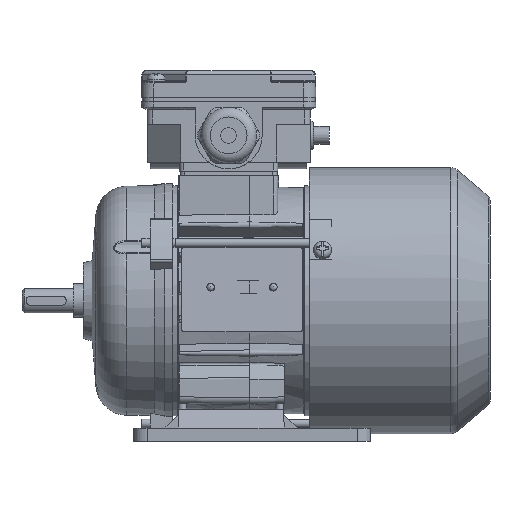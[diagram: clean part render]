
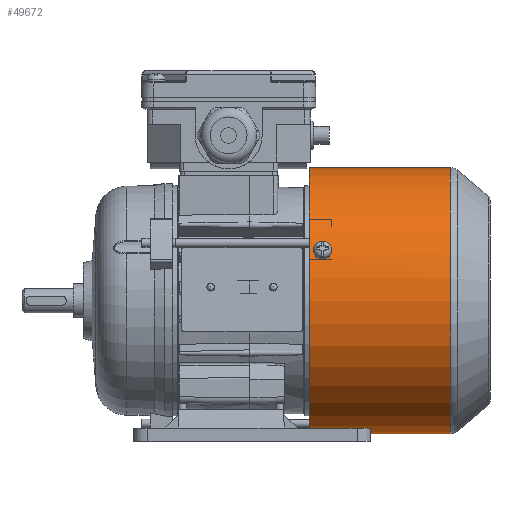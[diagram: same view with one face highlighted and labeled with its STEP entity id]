
A CAD part, front view. The second image highlights one B-rep face of the part: STEP entity #49672.
In plain terms, the highlighted cylindrical face has radius 59.6 mm (diameter 119.2 mm), a full revolution.
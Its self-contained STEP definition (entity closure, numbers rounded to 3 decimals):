
#765=B_SPLINE_CURVE_WITH_KNOTS('',3,(#66107,#66108,#66109,#66110,#66111,
#66112,#66113),.UNSPECIFIED.,.F.,.F.,(4,1,1,1,4),(0.,
0.002,0.004,0.006,0.007),
 .UNSPECIFIED.);
#766=B_SPLINE_CURVE_WITH_KNOTS('',3,(#66119,#66120,#66121,#66122,#66123,
#66124,#66125),.UNSPECIFIED.,.F.,.F.,(4,1,1,1,4),(0.,
0.002,0.004,0.006,0.007),
 .UNSPECIFIED.);
#767=B_SPLINE_CURVE_WITH_KNOTS('',3,(#66158,#66159,#66160,#66161,#66162,
#66163,#66164),.UNSPECIFIED.,.F.,.F.,(4,1,1,1,4),(0.,0.002,
0.004,0.006,0.008),
 .UNSPECIFIED.);
#768=B_SPLINE_CURVE_WITH_KNOTS('',3,(#66168,#66169,#66170,#66171,#66172,
#66173,#66174),.UNSPECIFIED.,.F.,.F.,(4,1,1,1,4),(0.,
0.002,0.004,0.006,0.008),
 .UNSPECIFIED.);
#769=B_SPLINE_CURVE_WITH_KNOTS('',3,(#66178,#66179,#66180,#66181,#66182,
#66183,#66184),.UNSPECIFIED.,.F.,.F.,(4,1,1,1,4),(0.,0.002,
0.004,0.006,0.008),
 .UNSPECIFIED.);
#770=B_SPLINE_CURVE_WITH_KNOTS('',3,(#66188,#66189,#66190,#66191,#66192,
#66193,#66194),.UNSPECIFIED.,.F.,.F.,(4,1,1,1,4),(0.,0.002,
0.004,0.006,0.008),
 .UNSPECIFIED.);
#1759=CYLINDRICAL_SURFACE('',#51781,59.6);
#8115=ORIENTED_EDGE('',*,*,#18914,.T.);
#8116=ORIENTED_EDGE('',*,*,#18915,.T.);
#8117=ORIENTED_EDGE('',*,*,#18916,.T.);
#8118=ORIENTED_EDGE('',*,*,#18917,.T.);
#8119=ORIENTED_EDGE('',*,*,#18897,.F.);
#8120=ORIENTED_EDGE('',*,*,#18900,.F.);
#8121=ORIENTED_EDGE('',*,*,#18918,.T.);
#8122=ORIENTED_EDGE('',*,*,#18919,.T.);
#8123=ORIENTED_EDGE('',*,*,#18920,.T.);
#8124=ORIENTED_EDGE('',*,*,#18921,.T.);
#8125=ORIENTED_EDGE('',*,*,#18922,.F.);
#8126=ORIENTED_EDGE('',*,*,#18923,.T.);
#18897=EDGE_CURVE('',#24331,#24332,#765,.T.);
#18900=EDGE_CURVE('',#24332,#24331,#766,.T.);
#18914=EDGE_CURVE('',#24347,#24348,#27905,.F.);
#18915=EDGE_CURVE('',#24348,#24349,#767,.T.);
#18916=EDGE_CURVE('',#24349,#24350,#27906,.F.);
#18917=EDGE_CURVE('',#24350,#24347,#768,.T.);
#18918=EDGE_CURVE('',#24351,#24352,#27907,.F.);
#18919=EDGE_CURVE('',#24352,#24353,#769,.T.);
#18920=EDGE_CURVE('',#24353,#24354,#27908,.F.);
#18921=EDGE_CURVE('',#24354,#24351,#770,.T.);
#18922=EDGE_CURVE('',#24355,#24355,#27909,.T.);
#18923=EDGE_CURVE('',#24356,#24356,#27910,.F.);
#24331=VERTEX_POINT('',#66105);
#24332=VERTEX_POINT('',#66106);
#24347=VERTEX_POINT('',#66156);
#24348=VERTEX_POINT('',#66157);
#24349=VERTEX_POINT('',#66165);
#24350=VERTEX_POINT('',#66167);
#24351=VERTEX_POINT('',#66176);
#24352=VERTEX_POINT('',#66177);
#24353=VERTEX_POINT('',#66185);
#24354=VERTEX_POINT('',#66187);
#24355=VERTEX_POINT('',#66196);
#24356=VERTEX_POINT('',#66198);
#27905=CIRCLE('',#51782,59.6);
#27906=CIRCLE('',#51783,59.6);
#27907=CIRCLE('',#51784,59.6);
#27908=CIRCLE('',#51785,59.6);
#27909=CIRCLE('',#51786,59.6);
#27910=CIRCLE('',#51787,59.6);
#29459=EDGE_LOOP('',(#8115,#8116,#8117,#8118));
#29460=EDGE_LOOP('',(#8119,#8120));
#29461=EDGE_LOOP('',(#8121,#8122,#8123,#8124));
#29462=EDGE_LOOP('',(#8125));
#29463=EDGE_LOOP('',(#8126));
#31881=FACE_BOUND('',#29459,.T.);
#31882=FACE_BOUND('',#29460,.T.);
#31883=FACE_BOUND('',#29461,.T.);
#31884=FACE_BOUND('',#29462,.T.);
#31885=FACE_BOUND('',#29463,.T.);
#49672=ADVANCED_FACE('',(#31881,#31882,#31883,#31884,#31885),#1759,.T.);
#51781=AXIS2_PLACEMENT_3D('',#66154,#55776,#55777);
#51782=AXIS2_PLACEMENT_3D('',#66155,#55778,#55779);
#51783=AXIS2_PLACEMENT_3D('',#66166,#55780,#55781);
#51784=AXIS2_PLACEMENT_3D('',#66175,#55782,#55783);
#51785=AXIS2_PLACEMENT_3D('',#66186,#55784,#55785);
#51786=AXIS2_PLACEMENT_3D('',#66195,#55786,#55787);
#51787=AXIS2_PLACEMENT_3D('',#66197,#55788,#55789);
#55776=DIRECTION('',(-1.,0.,0.));
#55777=DIRECTION('',(0.,0.,1.));
#55778=DIRECTION('',(-1.,0.,0.));
#55779=DIRECTION('',(0.,0.866,-0.5));
#55780=DIRECTION('',(1.,0.,0.));
#55781=DIRECTION('',(0.,-0.866,0.5));
#55782=DIRECTION('',(-1.,0.,0.));
#55783=DIRECTION('',(0.,0.,1.));
#55784=DIRECTION('',(1.,0.,0.));
#55785=DIRECTION('',(0.,0.,-1.));
#55786=DIRECTION('',(-1.,0.,0.));
#55787=DIRECTION('',(0.,0.,1.));
#55788=DIRECTION('',(1.,0.,0.));
#55789=DIRECTION('',(0.,0.,-1.));
#66105=CARTESIAN_POINT('',(35.,8.295,-59.02));
#66106=CARTESIAN_POINT('',(30.,8.295,-59.02));
#66107=CARTESIAN_POINT('',(35.,8.295,-59.02));
#66108=CARTESIAN_POINT('',(34.937,7.681,-59.106));
#66109=CARTESIAN_POINT('',(34.356,6.499,-59.249));
#66110=CARTESIAN_POINT('',(32.502,5.777,-59.318));
#66111=CARTESIAN_POINT('',(30.649,6.493,-59.25));
#66112=CARTESIAN_POINT('',(30.063,7.681,-59.106));
#66113=CARTESIAN_POINT('',(30.,8.295,-59.02));
#66119=CARTESIAN_POINT('',(30.,8.295,-59.02));
#66120=CARTESIAN_POINT('',(30.063,8.908,-58.934));
#66121=CARTESIAN_POINT('',(30.644,10.084,-58.746));
#66122=CARTESIAN_POINT('',(32.498,10.797,-58.613));
#66123=CARTESIAN_POINT('',(34.351,10.09,-58.745));
#66124=CARTESIAN_POINT('',(34.937,8.908,-58.934));
#66125=CARTESIAN_POINT('',(35.,8.295,-59.02));
#66154=CARTESIAN_POINT('',(-33.5,0.,0.));
#66155=CARTESIAN_POINT('',(35.,0.,0.));
#66156=CARTESIAN_POINT('',(35.,47.484,36.02));
#66157=CARTESIAN_POINT('',(35.,46.437,37.36));
#66158=CARTESIAN_POINT('',(35.,46.437,37.36));
#66159=CARTESIAN_POINT('',(35.,46.023,37.874));
#66160=CARTESIAN_POINT('',(34.458,45.191,38.867));
#66161=CARTESIAN_POINT('',(32.502,44.648,39.479));
#66162=CARTESIAN_POINT('',(30.542,45.19,38.869));
#66163=CARTESIAN_POINT('',(30.,46.023,37.874));
#66164=CARTESIAN_POINT('',(30.,46.437,37.36));
#66165=CARTESIAN_POINT('',(30.,46.437,37.36));
#66166=CARTESIAN_POINT('',(30.,0.,0.));
#66167=CARTESIAN_POINT('',(30.,47.484,36.02));
#66168=CARTESIAN_POINT('',(30.,47.484,36.02));
#66169=CARTESIAN_POINT('',(30.,47.883,35.493));
#66170=CARTESIAN_POINT('',(30.542,48.645,34.446));
#66171=CARTESIAN_POINT('',(32.498,49.108,33.771));
#66172=CARTESIAN_POINT('',(34.458,48.646,34.444));
#66173=CARTESIAN_POINT('',(35.,47.883,35.493));
#66174=CARTESIAN_POINT('',(35.,47.484,36.02));
#66175=CARTESIAN_POINT('',(35.,0.,0.));
#66176=CARTESIAN_POINT('',(35.,-54.936,23.112));
#66177=CARTESIAN_POINT('',(35.,-55.573,21.536));
#66178=CARTESIAN_POINT('',(35.,-55.573,21.536));
#66179=CARTESIAN_POINT('',(35.,-55.812,20.92));
#66180=CARTESIAN_POINT('',(34.458,-56.255,19.703));
#66181=CARTESIAN_POINT('',(32.502,-56.514,18.927));
#66182=CARTESIAN_POINT('',(30.542,-56.256,19.701));
#66183=CARTESIAN_POINT('',(30.,-55.812,20.92));
#66184=CARTESIAN_POINT('',(30.,-55.573,21.536));
#66185=CARTESIAN_POINT('',(30.,-55.573,21.536));
#66186=CARTESIAN_POINT('',(30.,0.,0.));
#66187=CARTESIAN_POINT('',(30.,-54.936,23.112));
#66188=CARTESIAN_POINT('',(30.,-54.936,23.112));
#66189=CARTESIAN_POINT('',(30.,-54.68,23.721));
#66190=CARTESIAN_POINT('',(30.542,-54.154,24.905));
#66191=CARTESIAN_POINT('',(32.498,-53.8,25.643));
#66192=CARTESIAN_POINT('',(34.458,-54.153,24.907));
#66193=CARTESIAN_POINT('',(35.,-54.68,23.721));
#66194=CARTESIAN_POINT('',(35.,-54.936,23.112));
#66195=CARTESIAN_POINT('',(26.5,0.,0.));
#66196=CARTESIAN_POINT('',(26.5,0.,59.6));
#66197=CARTESIAN_POINT('',(89.809,0.,0.));
#66198=CARTESIAN_POINT('',(89.809,0.,-59.6));
